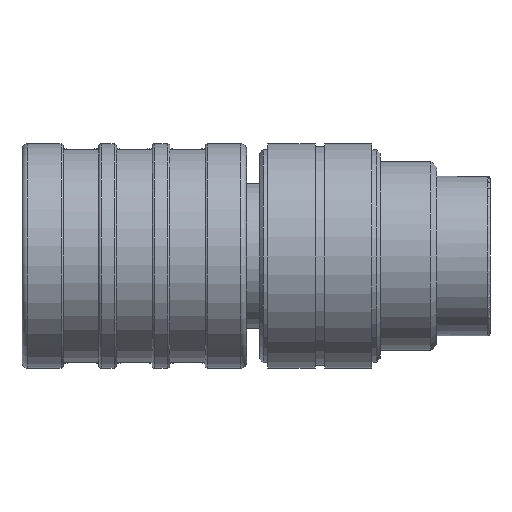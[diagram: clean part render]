
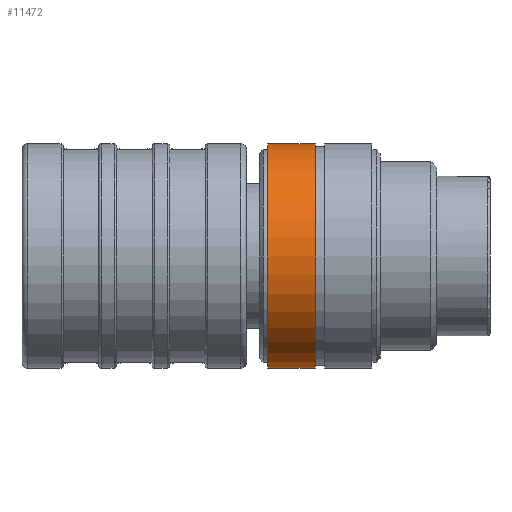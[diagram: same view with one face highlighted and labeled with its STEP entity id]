
A CAD part, left-side view. The second image highlights one B-rep face of the part: STEP entity #11472.
In plain terms, the highlighted cylindrical face has radius 9.5 mm (diameter 19 mm), a full revolution.
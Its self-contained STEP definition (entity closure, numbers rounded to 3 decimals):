
#11438=CARTESIAN_POINT('',(88.113,73.5,28.608));
#11439=VERTEX_POINT('',#11438);
#11440=CARTESIAN_POINT('',(78.613,73.5,28.608));
#11441=DIRECTION('',(0.0,-1.0,0.0));
#11442=DIRECTION('',(1.0,0.0,0.0));
#11443=AXIS2_PLACEMENT_3D('',#11440,#11441,#11442);
#11444=CIRCLE('',#11443,9.5);
#11445=EDGE_CURVE('',#11439,#11439,#11444,.T.);
#11453=CARTESIAN_POINT('',(78.613,71.5,28.608));
#11454=DIRECTION('',(0.,-1.0,0.));
#11455=DIRECTION('',(1.0,0.0,0.0));
#11456=AXIS2_PLACEMENT_3D('',#11453,#11454,#11455);
#11457=CYLINDRICAL_SURFACE('',#11456,9.5);
#11458=CARTESIAN_POINT('',(88.113,69.5,28.608));
#11459=VERTEX_POINT('',#11458);
#11460=CARTESIAN_POINT('',(78.613,69.5,28.608));
#11461=DIRECTION('',(0.0,-1.0,0.0));
#11462=DIRECTION('',(1.0,0.0,0.0));
#11463=AXIS2_PLACEMENT_3D('',#11460,#11461,#11462);
#11464=CIRCLE('',#11463,9.5);
#11465=EDGE_CURVE('',#11459,#11459,#11464,.T.);
#11466=ORIENTED_EDGE('',*,*,#11465,.F.);
#11467=EDGE_LOOP('',(#11466));
#11468=FACE_OUTER_BOUND('',#11467,.T.);
#11469=ORIENTED_EDGE('',*,*,#11445,.T.);
#11470=EDGE_LOOP('',(#11469));
#11471=FACE_BOUND('',#11470,.T.);
#11472=ADVANCED_FACE('',(#11468,#11471),#11457,.T.);
